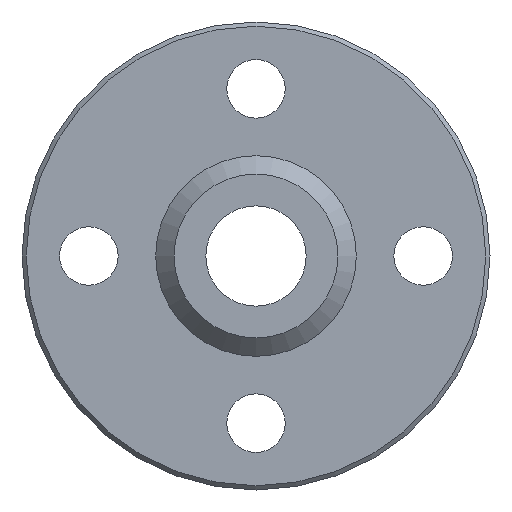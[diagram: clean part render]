
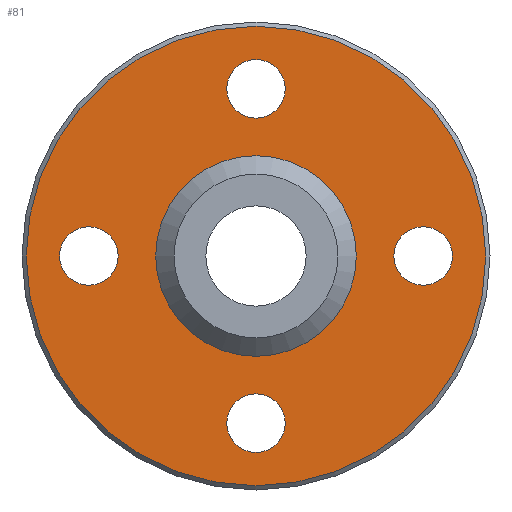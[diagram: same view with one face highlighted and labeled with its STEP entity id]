
A CAD part, left-side view. The second image highlights one B-rep face of the part: STEP entity #81.
In plain terms, the highlighted planar face has unit normal (-1, 0, 0).
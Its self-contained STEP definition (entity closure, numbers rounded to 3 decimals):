
#81=ADVANCED_FACE('',(#115,#116,#117,#118,#119,#120),#121,.F.);
#115=FACE_OUTER_BOUND('',#186,.T.);
#116=FACE_BOUND('',#187,.T.);
#117=FACE_BOUND('',#188,.T.);
#118=FACE_BOUND('',#189,.T.);
#119=FACE_BOUND('',#190,.T.);
#120=FACE_BOUND('',#191,.T.);
#121=PLANE('',#192);
#186=EDGE_LOOP('',(#269));
#187=EDGE_LOOP('',(#270));
#188=EDGE_LOOP('',(#271));
#189=EDGE_LOOP('',(#272));
#190=EDGE_LOOP('',(#273));
#191=EDGE_LOOP('',(#274));
#192=AXIS2_PLACEMENT_3D('',#275,#276,#277);
#269=ORIENTED_EDGE('',*,*,#360,.F.);
#270=ORIENTED_EDGE('',*,*,#361,.T.);
#271=ORIENTED_EDGE('',*,*,#362,.T.);
#272=ORIENTED_EDGE('',*,*,#363,.T.);
#273=ORIENTED_EDGE('',*,*,#364,.T.);
#274=ORIENTED_EDGE('',*,*,#359,.T.);
#275=CARTESIAN_POINT('',(-8.0,6.0,0.0));
#276=DIRECTION('',(1.0,0.0,0.0));
#277=DIRECTION('',(0.0,0.0,-1.0));
#359=EDGE_CURVE('',#391,#391,#392,.T.);
#360=EDGE_CURVE('',#393,#393,#394,.T.);
#361=EDGE_CURVE('',#395,#395,#396,.T.);
#362=EDGE_CURVE('',#397,#397,#398,.T.);
#363=EDGE_CURVE('',#399,#399,#400,.T.);
#364=EDGE_CURVE('',#401,#401,#402,.T.);
#391=VERTEX_POINT('',#441);
#392=CIRCLE('',#442,6.0);
#393=VERTEX_POINT('',#443);
#394=CIRCLE('',#444,13.746);
#395=VERTEX_POINT('',#445);
#396=CIRCLE('',#446,1.75);
#397=VERTEX_POINT('',#447);
#398=CIRCLE('',#448,1.75);
#399=VERTEX_POINT('',#449);
#400=CIRCLE('',#450,1.75);
#401=VERTEX_POINT('',#451);
#402=CIRCLE('',#452,1.75);
#441=CARTESIAN_POINT('',(-8.0,0.0,-6.0));
#442=AXIS2_PLACEMENT_3D('',#498,#499,#500);
#443=CARTESIAN_POINT('',(-8.0,0.,-13.746));
#444=AXIS2_PLACEMENT_3D('',#501,#502,#503);
#445=CARTESIAN_POINT('',(-8.0,-10.0,-1.75));
#446=AXIS2_PLACEMENT_3D('',#504,#505,#506);
#447=CARTESIAN_POINT('',(-8.0,0.,-11.75));
#448=AXIS2_PLACEMENT_3D('',#507,#508,#509);
#449=CARTESIAN_POINT('',(-8.0,10.0,-1.75));
#450=AXIS2_PLACEMENT_3D('',#510,#511,#512);
#451=CARTESIAN_POINT('',(-8.0,0.,8.25));
#452=AXIS2_PLACEMENT_3D('',#513,#514,#515);
#498=CARTESIAN_POINT('',(-8.0,0.0,0.));
#499=DIRECTION('',(1.0,0.0,0.0));
#500=DIRECTION('',(0.0,0.0,-1.0));
#501=CARTESIAN_POINT('',(-8.0,0.,0.0));
#502=DIRECTION('',(1.0,0.0,0.0));
#503=DIRECTION('',(0.0,0.0,-1.0));
#504=CARTESIAN_POINT('',(-8.0,-10.0,0.0));
#505=DIRECTION('',(1.0,0.0,0.0));
#506=DIRECTION('',(0.0,0.0,-1.0));
#507=CARTESIAN_POINT('',(-8.0,0.,-10.0));
#508=DIRECTION('',(1.0,0.0,0.0));
#509=DIRECTION('',(0.0,0.0,-1.0));
#510=CARTESIAN_POINT('',(-8.0,10.0,0.));
#511=DIRECTION('',(1.0,0.0,0.0));
#512=DIRECTION('',(0.0,0.0,-1.0));
#513=CARTESIAN_POINT('',(-8.0,0.,10.0));
#514=DIRECTION('',(1.0,0.0,0.0));
#515=DIRECTION('',(0.0,0.0,-1.0));
